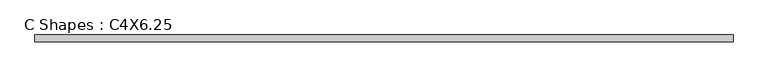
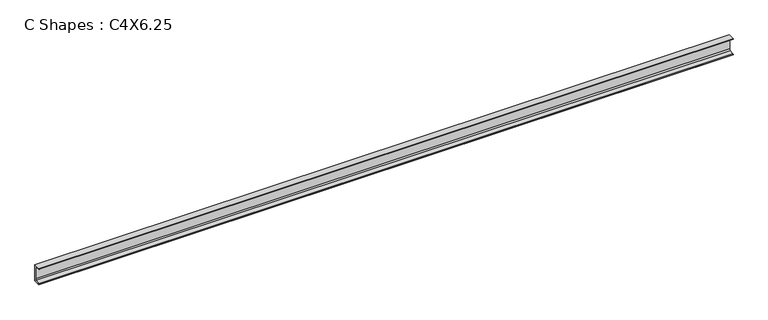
"""IFC4 building model written with IfcOpenShell, lengths in millimetres: beam geometry, C Shapes : C4X6.25."""

from ifc_helpers import new_model, si_unit, point, frame, frame_2d, origin, place, context, project, spatial, polyline, circle_curve, trimmed, segment, composite_curve, outline, extrude, source, transform, mapped, element, save


def c_shapes_c4x6_25_97051f67(model_context):
    return source(origin(), model_context, "Body", "SweptSolid", [
        extrude(outline(composite_curve([segment(polyline([(11.049, 50.8), (11.049, -50.8), (-30.861, -50.8), (-30.861, -49.7865772)]), True, "CONTINUOUS"), segment(trimmed(circle_curve(frame_2d((-27.4066, -49.7865772)), 3.4544), [point((-30.861, -49.7865772))], [point((-27.9743618, -46.379155))], False, "CARTESIAN"), True, "CONTINUOUS"), segment(polyline([(-27.9743618, -46.379155), (-0.9980765, -41.8842311)]), True, "CONTINUOUS"), segment(trimmed(circle_curve(frame_2d((-2.1336, -35.0693868)), 6.9088), [point((-0.9980765, -41.8842311))], [point((4.7752, -35.0693868))], True, "CARTESIAN"), True, "CONTINUOUS"), segment(polyline([(4.7752, -35.0693868), (4.7752, 35.0693868)]), True, "CONTINUOUS"), segment(trimmed(circle_curve(frame_2d((-2.1336, 35.0693868)), 6.9088), [point((4.7752, 35.0693868))], [point((-0.9980765, 41.8842311))], True, "CARTESIAN"), True, "CONTINUOUS"), segment(polyline([(-0.9980765, 41.8842311), (-27.9743618, 46.379155)]), True, "CONTINUOUS"), segment(trimmed(circle_curve(frame_2d((-27.4066, 49.7865772)), 3.4544), [point((-27.9743618, 46.379155))], [point((-30.861, 49.7865772))], False, "CARTESIAN"), True, "CONTINUOUS"), segment(polyline([(-30.861, 49.7865772), (-30.861, 50.8), (11.049, 50.8)]), True, "CONTINUOUS")], self_intersect=False)), frame((-2105.3334285, 0.0, 0.0), z_axis=(1.0, 0.0, 0.0), x_axis=(0.0, 1.0, 0.0)), (0.0, 0.0, 1.0), 4210.666857),
    ])


if __name__ == "__main__":
    model = new_model("IFC4")
    model_context = context("Model", 3, world=origin())
    ifc_project = project(units=[si_unit("LENGTHUNIT", "METRE", prefix="MILLI")], contexts=[model_context])
    site = spatial("IfcSite", under=ifc_project)
    building = spatial("IfcBuilding", under=site)
    placement = place(None, origin())
    c_shapes_c4x6_25_shape = c_shapes_c4x6_25_97051f67(model_context)
    element("IfcBeam", 1, ObjectType="C Shapes : C4X6.25", at=placement, inside=building, context=model_context, shape_type="MappedRepresentation", body=[
        mapped(c_shapes_c4x6_25_shape, transform((0.0, 0.0, 0.0), x_axis=(1.0, 0.0, 0.0), y_axis=(0.0, 1.0, 0.0), z_axis=(0.0, 0.0, 1.0))),
    ])
    save(model, "model.ifc")
